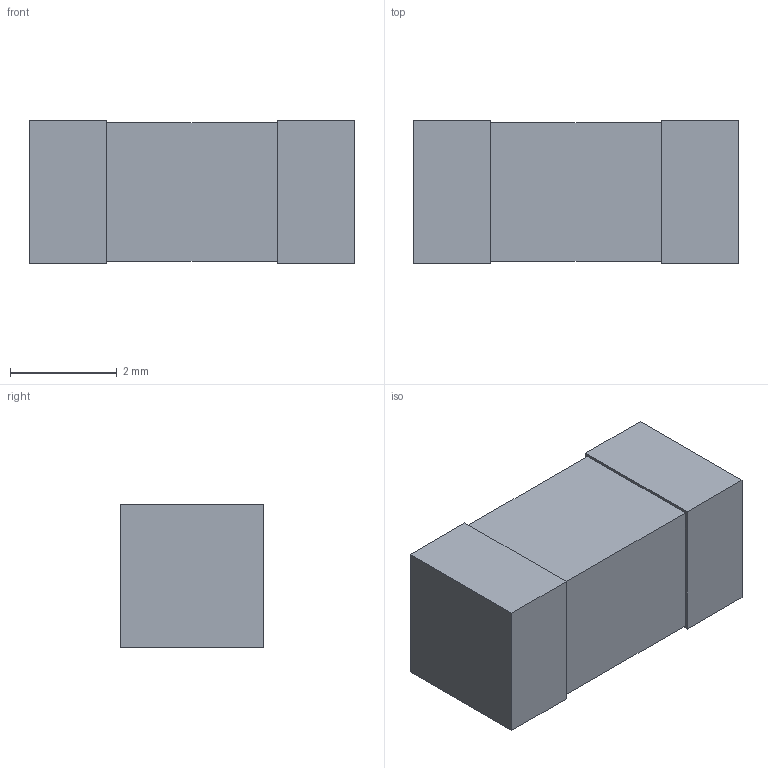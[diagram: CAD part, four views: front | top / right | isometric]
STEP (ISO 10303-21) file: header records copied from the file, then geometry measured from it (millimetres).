
FILE_DESCRIPTION(('Open CASCADE Model'),'2;1');
FILE_NAME('Open CASCADE Shape Model','2026-10-30T12:14:24',('Author'),( 'Open CASCADE'),'Open CASCADE STEP processor 7.9','Open CASCADE 7.9' ,'Unknown');
FILE_SCHEMA(('AUTOMOTIVE_DESIGN { 1 0 10303 214 1 1 1 1 }'));
Length unit declared in the file: millimetre
Products named in the file (4): Littelfuse_0451001_MRL_DIMENSIONED_VISUAL; Ceramic; End1; End2
Assembly tree (3 placements, depth 2):
  Littelfuse_0451001_MRL_DIMENSIONED_VISUAL
    Ceramic
    End1
    End2
Bounding box: 6.1 x 2.69 x 2.69 mm (x, y, z)
Volume: 42.5 mm3; surface area: 106.7 mm2
Topology: 3 solids, 3 shells, 18 faces, 36 edges, 24 vertices
Faces by surface type: plane 18
Entity records: 1014 total; most frequent: CARTESIAN_POINT 154, DIRECTION 152, LINE 108, VECTOR 108, ORIENTED_EDGE 72, PCURVE 72, DEFINITIONAL_REPRESENTATION 72, EDGE_CURVE 36
